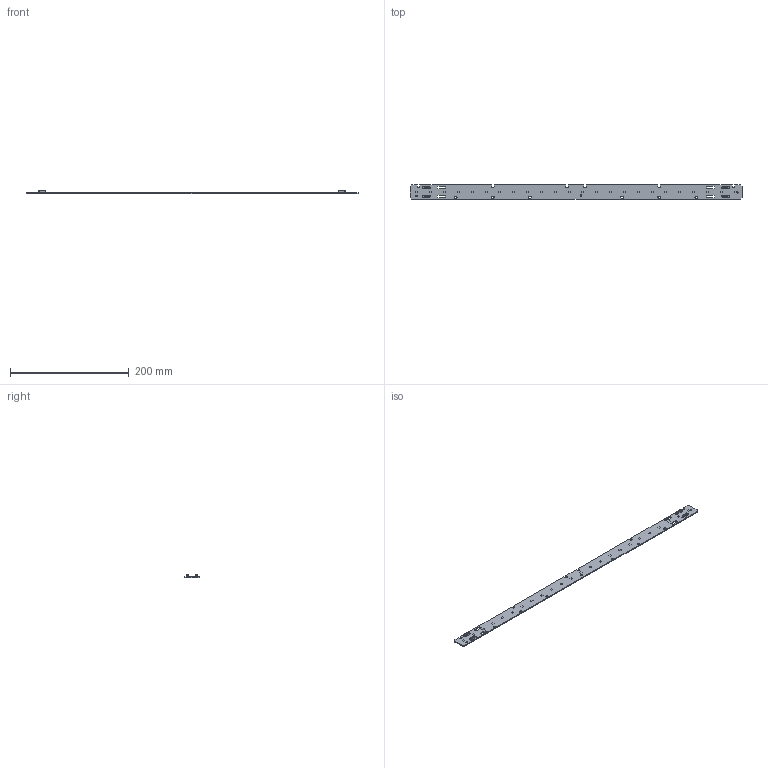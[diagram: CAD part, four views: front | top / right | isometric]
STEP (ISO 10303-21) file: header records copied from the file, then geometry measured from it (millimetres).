
FILE_DESCRIPTION((''),'2;1');
FILE_NAME('16208811_LLE-G5-LV-24X560-1300L','2018-08-29T14:50:52',('bernhard.fink'),(''),'CREO PARAMETRIC BY PTC INC, 2017380','CREO PARAMETRIC BY PTC INC, 2017380','');
FILE_SCHEMA(('AUTOMOTIVE_DESIGN { 1 0 10303 214 1 1 1 1 }'));
Products named in the file (1): 16208811_LLE-G5-LV-24X560-1300L
Bounding box: 559 x 23.6 x 5.1 mm (x, y, z)
Volume: 21651.4 mm3; surface area: 28855.9 mm2
Topology: 1 solids, 1 shells, 1305 faces, 3345 edges, 2060 vertices
Faces by surface type: plane 585, cylinder 348, bspline 240, cone 68, sphere 40, torus 24
Entity records: 67965 total; most frequent: CARTESIAN_POINT 19407, ORIENTED_EDGE 6612, DIRECTION 5044, PRESENTATION_STYLE_ASSIGNMENT 4606, STYLED_ITEM 3307, CURVE_STYLE 3306, EDGE_CURVE 3306, VERTEX_POINT 2056
